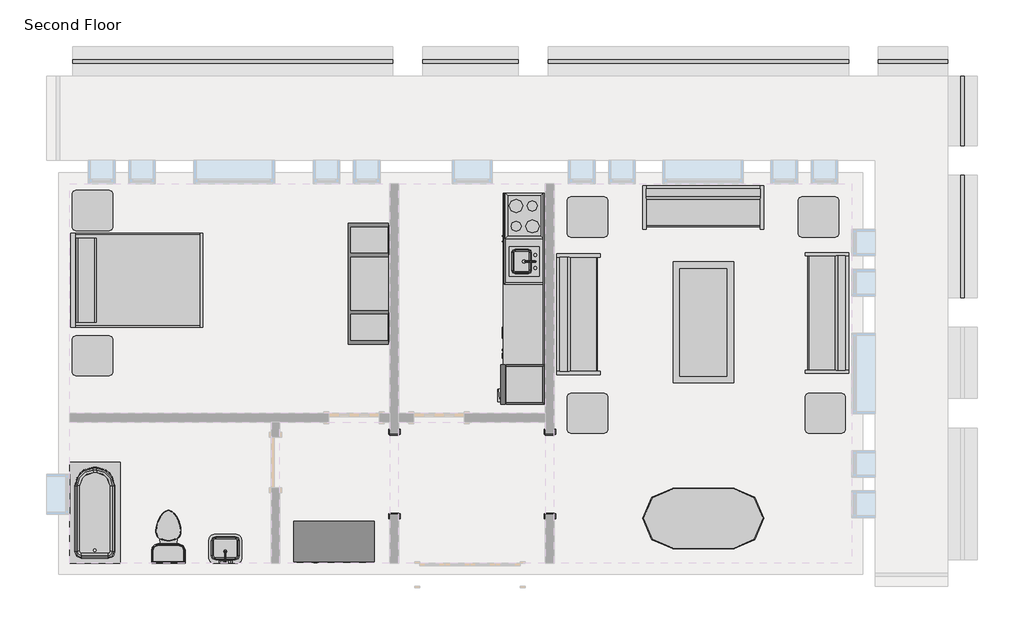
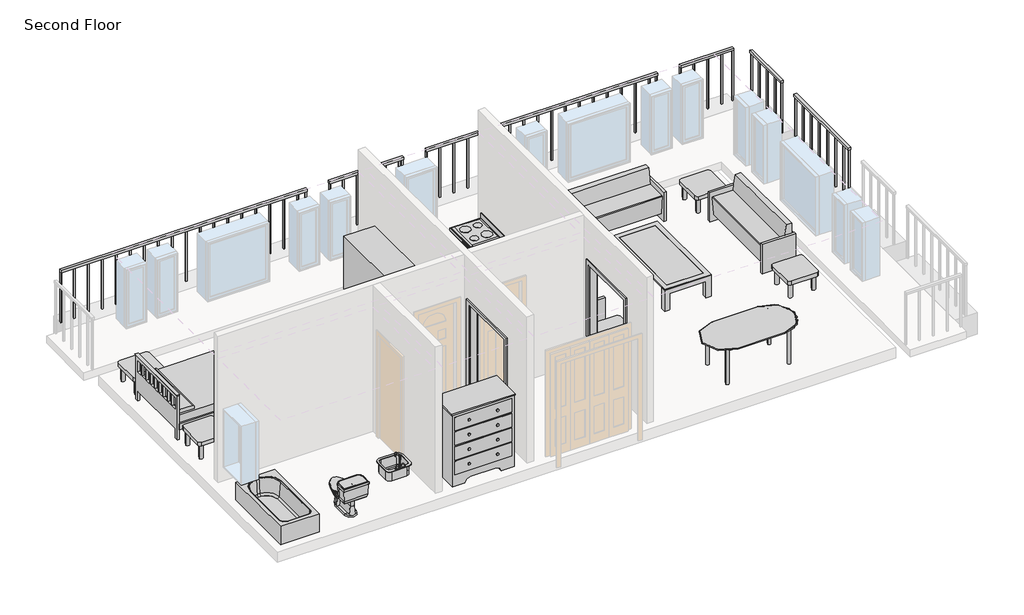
# One storey, part 2 of 2: 15 furniture elements, 6 proxies, 6 railings, 4 flow terminals.
"""IFC4 building model written with IfcOpenShell, lengths in millimetres."""

from ifc_helpers import new_model, si_unit, frame, origin, place, context, project, spatial, polyline, outline, extrude, transform, mapped, element, save
from components import m_cook_top_4_unit2_0615_x_500mm_249f3515, m_dishwasher_610_x_610_x_875mm_54ecfc4c, m_kitchenette_medium_1372mm_e05c6bec, m_passage_opening_cased_1220_x_2134mm_87a8d9c2, m_refrigerator_600_x_660mm_a466bf94, m_sink_kitchen_island_450_x_450mm_f969cf2d, m_sink_vanity_square_500_x_440mm_1e229b74, m_toilet_domestic_3d_m_toilet_domestic_3d_5cb52bd4, m_toilet_domestic_3d_m_toilet_domestic_3d_183bbd19, m_tub_rectangular_3d_m_tub_rectangular_3d_3a981ad5, m_bed_shaker_1422_x_1981mm_double_096e7f55, m_counter_top_w_sink_hole_600mm_depth_1fb56bb9, m_dresser_1220_x_1525_x_0610mm_18e1f140, m_entertainment_center_1830_x_1830_x_0610mm_f77a9b93, m_sofa_1830mm_58d08fc1, m_table_coffee_0915_x_1830_x_0457mm_134cd960, m_table_dining_oval_0915_x_1830mm_a7cfbe21, m_table_end_cb6ea12e

model = new_model("IFC4")

# Units and contexts
model_context = context("Model", 3, world=origin())
ifc_project = project(units=[si_unit("LENGTHUNIT", "METRE", prefix="MILLI")], contexts=[model_context])

# Site, building, storey
site = spatial("IfcSite", under=ifc_project)
building = spatial("IfcBuilding", under=site)
storey = spatial("IfcBuildingStorey", under=building, Name="Second Floor", Elevation=3048.0)

# Proxies
placement = place(None, origin())
m_cook_top_4_unit2_0615_x_500mm_shape = m_cook_top_4_unit2_0615_x_500mm_249f3515(model_context)
element("IfcBuildingElementProxy", 1, Name="M_Cook Top-4 Unit2 : 0615 x 500mm", ObjectType="M_Cook Top-4 Unit2 : 0615 x 500mm", at=placement, inside=storey, context=model_context, shape_type="MappedRepresentation", body=[
    mapped(m_cook_top_4_unit2_0615_x_500mm_shape, transform((-8054.9916203, 1914.054661, 3048.0), x_axis=(0.0, -1.0, 0.0), y_axis=(1.0, 0.0, 0.0), z_axis=(0.0, 0.0, 1.0))),
])
m_dishwasher_610_x_610_x_875mm_shape = m_dishwasher_610_x_610_x_875mm_54ecfc4c(model_context)
element("IfcBuildingElementProxy", 2, Name="M_Dishwasher : 610 x 610 x 875mm", ObjectType="M_Dishwasher : 610 x 610 x 875mm", at=placement, inside=storey, context=model_context, shape_type="MappedRepresentation", body=[
    mapped(m_dishwasher_610_x_610_x_875mm_shape, transform((-8321.6411851, 353.5721295, 3048.0), x_axis=(0.0, -1.0, 0.0), y_axis=(1.0, 0.0, 0.0), z_axis=(0.0, 0.0, 1.0))),
])
m_kitchenette_medium_1372mm_shape = m_kitchenette_medium_1372mm_e05c6bec(model_context)
element("IfcBuildingElementProxy", 3, Name="M_Kitchenette - Medium : 1372mm", ObjectType="M_Kitchenette - Medium : 1372mm", at=placement, inside=storey, context=model_context, shape_type="MappedRepresentation", body=[
    mapped(m_kitchenette_medium_1372mm_shape, transform((-7749.9916203, 1589.7923659, 3048.0), x_axis=(0.0, -1.0, 0.0), y_axis=(1.0, 0.0, 0.0), z_axis=(0.0, 0.0, 1.0))),
])
m_passage_opening_cased_1220_x_2134mm_shape = m_passage_opening_cased_1220_x_2134mm_87a8d9c2(model_context)
element("IfcBuildingElementProxy", 4, Name="M_Passage Opening-Cased : 1220 x 2134mm", ObjectType="M_Passage Opening-Cased : 1220 x 2134mm", at=placement, inside=storey, context=model_context, shape_type="MappedRepresentation", body=[
    mapped(m_passage_opening_cased_1220_x_2134mm_shape, transform((-7665.3416203, -1982.6925047, 3048.0), x_axis=(0.0, 1.0, 0.0), y_axis=(-1.0, 0.0, 0.0), z_axis=(0.0, 0.0, 1.0))),
])
element("IfcBuildingElementProxy", 5, Name="M_Passage Opening-Cased : 1220 x 2134mm", ObjectType="M_Passage Opening-Cased : 1220 x 2134mm", at=placement, inside=storey, context=model_context, shape_type="MappedRepresentation", body=[
    mapped(m_passage_opening_cased_1220_x_2134mm_shape, transform((-10019.0916203, -1999.0698181, 3048.0), x_axis=(0.0, -1.0, 0.0), y_axis=(1.0, 0.0, 0.0), z_axis=(0.0, 0.0, 1.0))),
])
m_refrigerator_600_x_660mm_shape = m_refrigerator_600_x_660mm_a466bf94(model_context)
element("IfcBuildingElementProxy", 6, Name="M_Refrigerator : 600 x 660mm", ObjectType="M_Refrigerator : 600 x 660mm", at=placement, inside=storey, context=model_context, shape_type="MappedRepresentation", body=[
    mapped(m_refrigerator_600_x_660mm_shape, transform((-8046.2067105, -687.7464817, 3048.0), x_axis=(0.0, -1.0, 0.0), y_axis=(1.0, 0.0, 0.0), z_axis=(0.0, 0.0, 1.0))),
])

# Flow terminals
m_sink_kitchen_island_450_x_450mm_shape = m_sink_kitchen_island_450_x_450mm_f969cf2d(model_context)
element("IfcFlowTerminal", 7, ObjectType="M_Sink Kitchen-Island : 450 x 450mm", at=placement, inside=storey, context=model_context, shape_type="MappedRepresentation", body=[
    mapped(m_sink_kitchen_island_450_x_450mm_shape, transform((-8057.3370214, 1243.7439015, 3048.0), x_axis=(0.0, -1.0, 0.0), y_axis=(1.0, 0.0, 0.0), z_axis=(0.0, 0.0, 1.0))),
])
m_sink_vanity_square_500_x_440mm_shape = m_sink_vanity_square_500_x_440mm_1e229b74(model_context)
element("IfcFlowTerminal", 8, ObjectType="M_Sink Vanity-Square : 500 x 440mm", at=placement, inside=storey, context=model_context, shape_type="MappedRepresentation", body=[
    mapped(m_sink_vanity_square_500_x_440mm_shape, transform((-12563.5523798, -3158.1107603, 3048.0), x_axis=(-1.0, 0.0, 0.0), y_axis=(0.0, -1.0, 0.0), z_axis=(0.0, 0.0, 1.0))),
])
m_toilet_domestic_3d_m_toilet_domestic_3d_shape = m_toilet_domestic_3d_m_toilet_domestic_3d_5cb52bd4(model_context)
m_toilet_domestic_3d_m_toilet_domestic_3d_2_shape = m_toilet_domestic_3d_m_toilet_domestic_3d_183bbd19(model_context)
element("IfcFlowTerminal", 9, ObjectType="M_Toilet-Domestic-3D : M_Toilet-Domestic-3D", at=placement, inside=storey, context=model_context, shape_type="MappedRepresentation", body=[
    mapped(m_toilet_domestic_3d_m_toilet_domestic_3d_shape, transform((-13440.7376477, -2845.185134, 3048.0), x_axis=(-1.0000000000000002, 0.0, 0.0), y_axis=(0.0, -1.0000000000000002, 0.0), z_axis=(0.0, 0.0, 1.0))),
    mapped(m_toilet_domestic_3d_m_toilet_domestic_3d_2_shape, transform((-13440.7376477, -2845.185134, 3048.0), x_axis=(-1.0000000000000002, 0.0, 0.0), y_axis=(0.0, -1.0000000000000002, 0.0), z_axis=(0.0, 0.0, 1.0))),
])
m_tub_rectangular_3d_m_tub_rectangular_3d_shape = m_tub_rectangular_3d_m_tub_rectangular_3d_3a981ad5(model_context)
element("IfcFlowTerminal", 10, ObjectType="M_Tub-Rectangular-3D : M_Tub-Rectangular-3D", at=placement, inside=storey, context=model_context, shape_type="MappedRepresentation", body=[
    mapped(m_tub_rectangular_3d_m_tub_rectangular_3d_shape, transform((-15110.3416203, -2229.2781927, 3048.0), x_axis=(0.0, 1.0, 0.0), y_axis=(-1.0, 0.0, 0.0), z_axis=(0.0, 0.0, 1.0))),
])

# Furniture
m_bed_shaker_1422_x_1981mm_double_shape = m_bed_shaker_1422_x_1981mm_double_096e7f55(model_context)
element("IfcFurniture", 11, ObjectType="M_Bed-Shaker : 1422 x 1981mm - Double", at=placement, inside=storey, context=model_context, shape_type="MappedRepresentation", body=[
    mapped(m_bed_shaker_1422_x_1981mm_double_shape, transform((-14905.3416203, 963.9688386, 3048.0), x_axis=(0.0, 1.0000000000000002, 0.0), y_axis=(-1.0000000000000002, 0.0, 0.0), z_axis=(0.0, 0.0, 1.0))),
])
m_counter_top_w_sink_hole_600mm_depth_shape = m_counter_top_w_sink_hole_600mm_depth_1fb56bb9(model_context)
element("IfcFurniture", 12, ObjectType="M_Counter Top w Sink Hole : 600mm Depth", at=placement, inside=storey, context=model_context, shape_type="MappedRepresentation", body=[
    mapped(m_counter_top_w_sink_hole_600mm_depth_shape, transform((-7749.9916203, 1056.5923659, 3048.0), x_axis=(0.0, -1.0, 0.0), y_axis=(1.0, 0.0, 0.0), z_axis=(0.0, 0.0, 1.0))),
])
m_dresser_1220_x_1525_x_0610mm_shape = m_dresser_1220_x_1525_x_0610mm_18e1f140(model_context)
element("IfcFurniture", 13, ObjectType="M_Dresser : 1220 x 1525 x 0610mm", at=placement, inside=storey, context=model_context, shape_type="MappedRepresentation", body=[
    mapped(m_dresser_1220_x_1525_x_0610mm_shape, transform((-10667.6483605, -2647.7182073, 3048.0), x_axis=(1.0, 0.0, 0.0), y_axis=(0.0, 1.0, 0.0), z_axis=(0.0, 0.0, 1.0))),
])
m_entertainment_center_1830_x_1830_x_0610mm_shape = m_entertainment_center_1830_x_1830_x_0610mm_f77a9b93(model_context)
element("IfcFurniture", 14, ObjectType="M_Entertainment center : 1830 x 1830 x 0610mm", at=placement, inside=storey, context=model_context, shape_type="MappedRepresentation", body=[
    mapped(m_entertainment_center_1830_x_1830_x_0610mm_shape, transform((-10818.2416203, 891.1188386, 3048.0), x_axis=(0.0, 1.0, 0.0), y_axis=(-1.0, 0.0, 0.0), z_axis=(0.0, 0.0, 1.0))),
])
m_sofa_1830mm_shape = m_sofa_1830mm_58d08fc1(model_context)
element("IfcFurniture", 15, ObjectType="M_Sofa : 1830mm", at=placement, inside=storey, context=model_context, shape_type="MappedRepresentation", body=[
    mapped(m_sofa_1830mm_shape, transform((-5413.7121121, 1899.9647403, 3048.0), x_axis=(1.0, 0.0, 0.0), y_axis=(0.0, 1.0, 0.0), z_axis=(0.0, 0.0, 1.0))),
])
element("IfcFurniture", 16, ObjectType="M_Sofa : 1830mm", at=placement, inside=storey, context=model_context, shape_type="MappedRepresentation", body=[
    mapped(m_sofa_1830mm_shape, transform((-3617.1736471, 517.2688343, 3048.0), x_axis=(0.0, -1.0, 0.0), y_axis=(1.0, 0.0, 0.0), z_axis=(0.0, 0.0, 1.0))),
])
element("IfcFurniture", 17, ObjectType="M_Sofa : 1830mm", at=placement, inside=storey, context=model_context, shape_type="MappedRepresentation", body=[
    mapped(m_sofa_1830mm_shape, transform((-7088.437522, 355.7483468, 3048.0), x_axis=(0.0, 1.0, 0.0), y_axis=(-1.0, 0.0, 0.0), z_axis=(0.0, 0.0, 1.0))),
])
m_table_coffee_0915_x_1830_x_0457mm_shape = m_table_coffee_0915_x_1830_x_0457mm_134cd960(model_context)
element("IfcFurniture", 18, ObjectType="M_Table-Coffee : 0915 x 1830 x 0457mm", at=placement, inside=storey, context=model_context, shape_type="MappedRepresentation", body=[
    mapped(m_table_coffee_0915_x_1830_x_0457mm_shape, transform((-5248.1305425, 287.8530719, 3048.0), x_axis=(0.0, 1.0, 0.0), y_axis=(-1.0, 0.0, 0.0), z_axis=(0.0, 0.0, 1.0))),
])
m_table_dining_oval_0915_x_1830mm_shape = m_table_dining_oval_0915_x_1830mm_a7cfbe21(model_context)
element("IfcFurniture", 19, ObjectType="M_Table-Dining Oval : 0915 x 1830mm", at=placement, inside=storey, context=model_context, shape_type="MappedRepresentation", body=[
    mapped(m_table_dining_oval_0915_x_1830mm_shape, transform((-4941.5219482, -2305.2828007, 3048.0), x_axis=(1.0, 0.0, 0.0), y_axis=(0.0, 1.0, 0.0), z_axis=(0.0, 0.0, 1.0))),
])
m_table_end_shape = m_table_end_cb6ea12e(model_context)
element("IfcFurniture", 20, ObjectType="M_Table-End : 0610 x 0160mm altered height", at=placement, inside=storey, context=model_context, shape_type="MappedRepresentation", body=[
    mapped(m_table_end_shape, transform((-7407.0752506, 1748.7188386, 3048.0), x_axis=(1.0, 0.0, 0.0), y_axis=(0.0, 1.0, 0.0), z_axis=(0.0, 0.0, 1.0))),
])
element("IfcFurniture", 21, ObjectType="M_Table-End : 0610 x 0160mm altered height", at=placement, inside=storey, context=model_context, shape_type="MappedRepresentation", body=[
    mapped(m_table_end_shape, transform((-3907.0752506, 1748.7188386, 3048.0), x_axis=(1.0, 0.0, 0.0), y_axis=(0.0, 1.0, 0.0), z_axis=(0.0, 0.0, 1.0))),
])
element("IfcFurniture", 22, ObjectType="M_Table-End : 0610 x 0160mm altered height", at=placement, inside=storey, context=model_context, shape_type="MappedRepresentation", body=[
    mapped(m_table_end_shape, transform((-3807.0752506, -1222.7811614, 3048.0), x_axis=(1.0, 0.0, 0.0), y_axis=(0.0, 1.0, 0.0), z_axis=(0.0, 0.0, 1.0))),
])
element("IfcFurniture", 23, ObjectType="M_Table-End : 0610 x 0160mm altered height", at=placement, inside=storey, context=model_context, shape_type="MappedRepresentation", body=[
    mapped(m_table_end_shape, transform((-7407.0752506, -1222.7811614, 3048.0), x_axis=(1.0, 0.0, 0.0), y_axis=(0.0, 1.0, 0.0), z_axis=(0.0, 0.0, 1.0))),
])
element("IfcFurniture", 24, ObjectType="M_Table-End : 0610 x 0160mm altered height", at=placement, inside=storey, context=model_context, shape_type="MappedRepresentation", body=[
    mapped(m_table_end_shape, transform((-14899.0752506, -351.2811614, 3048.0), x_axis=(1.0, 0.0, 0.0), y_axis=(0.0, 1.0, 0.0), z_axis=(0.0, 0.0, 1.0))),
])
element("IfcFurniture", 25, ObjectType="M_Table-End : 0610 x 0160mm altered height", at=placement, inside=storey, context=model_context, shape_type="MappedRepresentation", body=[
    mapped(m_table_end_shape, transform((-14899.0752506, 1848.7188386, 3048.0), x_axis=(1.0, 0.0, 0.0), y_axis=(0.0, 1.0, 0.0), z_axis=(0.0, 0.0, 1.0))),
])

# Railings
element("IfcRailing", 26, ObjectType="1100mm", at=placement, inside=storey, context=model_context, shape_type="SweptSolid", body=[
    extrude(outline(polyline([(-14885.3416203, 4231.1188386), (-14885.3416203, 4281.1188386), (-10043.3416203, 4281.1188386), (-10043.3416203, 4231.1188386), (-14885.3416203, 4231.1188386)])), frame((0.0, 0.0, 4098.0), z_axis=(0.0, 0.0, 1.0), x_axis=(1.0, 0.0, 0.0)), (0.0, 0.0, 1.0), 50.0),
    extrude(outline(polyline([(-10222.8416203, 4243.6188386), (-10222.8416203, 4268.6188386), (-10197.8416203, 4268.6188386), (-10197.8416203, 4243.6188386), (-10222.8416203, 4243.6188386)])), frame((0.0, 0.0, 3048.0), z_axis=(0.0, 0.0, 1.0), x_axis=(1.0, 0.0, 0.0)), (0.0, 0.0, 1.0), 1050.0),
    extrude(outline(polyline([(-10497.8416203, 4243.6188386), (-10497.8416203, 4268.6188386), (-10472.8416203, 4268.6188386), (-10472.8416203, 4243.6188386), (-10497.8416203, 4243.6188386)])), frame((0.0, 0.0, 3048.0), z_axis=(0.0, 0.0, 1.0), x_axis=(1.0, 0.0, 0.0)), (0.0, 0.0, 1.0), 1050.0),
    extrude(outline(polyline([(-10772.8416203, 4243.6188386), (-10772.8416203, 4268.6188386), (-10747.8416203, 4268.6188386), (-10747.8416203, 4243.6188386), (-10772.8416203, 4243.6188386)])), frame((0.0, 0.0, 3048.0), z_axis=(0.0, 0.0, 1.0), x_axis=(1.0, 0.0, 0.0)), (0.0, 0.0, 1.0), 1050.0),
    extrude(outline(polyline([(-11047.8416203, 4243.6188386), (-11047.8416203, 4268.6188386), (-11022.8416203, 4268.6188386), (-11022.8416203, 4243.6188386), (-11047.8416203, 4243.6188386)])), frame((0.0, 0.0, 3048.0), z_axis=(0.0, 0.0, 1.0), x_axis=(1.0, 0.0, 0.0)), (0.0, 0.0, 1.0), 1050.0),
    extrude(outline(polyline([(-11322.8416203, 4243.6188386), (-11322.8416203, 4268.6188386), (-11297.8416203, 4268.6188386), (-11297.8416203, 4243.6188386), (-11322.8416203, 4243.6188386)])), frame((0.0, 0.0, 3048.0), z_axis=(0.0, 0.0, 1.0), x_axis=(1.0, 0.0, 0.0)), (0.0, 0.0, 1.0), 1050.0),
    extrude(outline(polyline([(-11597.8416203, 4243.6188386), (-11597.8416203, 4268.6188386), (-11572.8416203, 4268.6188386), (-11572.8416203, 4243.6188386), (-11597.8416203, 4243.6188386)])), frame((0.0, 0.0, 3048.0), z_axis=(0.0, 0.0, 1.0), x_axis=(1.0, 0.0, 0.0)), (0.0, 0.0, 1.0), 1050.0),
    extrude(outline(polyline([(-11872.8416203, 4243.6188386), (-11872.8416203, 4268.6188386), (-11847.8416203, 4268.6188386), (-11847.8416203, 4243.6188386), (-11872.8416203, 4243.6188386)])), frame((0.0, 0.0, 3048.0), z_axis=(0.0, 0.0, 1.0), x_axis=(1.0, 0.0, 0.0)), (0.0, 0.0, 1.0), 1050.0),
    extrude(outline(polyline([(-12147.8416203, 4243.6188386), (-12147.8416203, 4268.6188386), (-12122.8416203, 4268.6188386), (-12122.8416203, 4243.6188386), (-12147.8416203, 4243.6188386)])), frame((0.0, 0.0, 3048.0), z_axis=(0.0, 0.0, 1.0), x_axis=(1.0, 0.0, 0.0)), (0.0, 0.0, 1.0), 1050.0),
    extrude(outline(polyline([(-12422.8416203, 4243.6188386), (-12422.8416203, 4268.6188386), (-12397.8416203, 4268.6188386), (-12397.8416203, 4243.6188386), (-12422.8416203, 4243.6188386)])), frame((0.0, 0.0, 3048.0), z_axis=(0.0, 0.0, 1.0), x_axis=(1.0, 0.0, 0.0)), (0.0, 0.0, 1.0), 1050.0),
    extrude(outline(polyline([(-12697.8416203, 4243.6188386), (-12697.8416203, 4268.6188386), (-12672.8416203, 4268.6188386), (-12672.8416203, 4243.6188386), (-12697.8416203, 4243.6188386)])), frame((0.0, 0.0, 3048.0), z_axis=(0.0, 0.0, 1.0), x_axis=(1.0, 0.0, 0.0)), (0.0, 0.0, 1.0), 1050.0),
    extrude(outline(polyline([(-12972.8416203, 4243.6188386), (-12972.8416203, 4268.6188386), (-12947.8416203, 4268.6188386), (-12947.8416203, 4243.6188386), (-12972.8416203, 4243.6188386)])), frame((0.0, 0.0, 3048.0), z_axis=(0.0, 0.0, 1.0), x_axis=(1.0, 0.0, 0.0)), (0.0, 0.0, 1.0), 1050.0),
    extrude(outline(polyline([(-13247.8416203, 4243.6188386), (-13247.8416203, 4268.6188386), (-13222.8416203, 4268.6188386), (-13222.8416203, 4243.6188386), (-13247.8416203, 4243.6188386)])), frame((0.0, 0.0, 3048.0), z_axis=(0.0, 0.0, 1.0), x_axis=(1.0, 0.0, 0.0)), (0.0, 0.0, 1.0), 1050.0),
    extrude(outline(polyline([(-13522.8416203, 4243.6188386), (-13522.8416203, 4268.6188386), (-13497.8416203, 4268.6188386), (-13497.8416203, 4243.6188386), (-13522.8416203, 4243.6188386)])), frame((0.0, 0.0, 3048.0), z_axis=(0.0, 0.0, 1.0), x_axis=(1.0, 0.0, 0.0)), (0.0, 0.0, 1.0), 1050.0),
    extrude(outline(polyline([(-13797.8416203, 4243.6188386), (-13797.8416203, 4268.6188386), (-13772.8416203, 4268.6188386), (-13772.8416203, 4243.6188386), (-13797.8416203, 4243.6188386)])), frame((0.0, 0.0, 3048.0), z_axis=(0.0, 0.0, 1.0), x_axis=(1.0, 0.0, 0.0)), (0.0, 0.0, 1.0), 1050.0),
    extrude(outline(polyline([(-14072.8416203, 4243.6188386), (-14072.8416203, 4268.6188386), (-14047.8416203, 4268.6188386), (-14047.8416203, 4243.6188386), (-14072.8416203, 4243.6188386)])), frame((0.0, 0.0, 3048.0), z_axis=(0.0, 0.0, 1.0), x_axis=(1.0, 0.0, 0.0)), (0.0, 0.0, 1.0), 1050.0),
    extrude(outline(polyline([(-14347.8416203, 4243.6188386), (-14347.8416203, 4268.6188386), (-14322.8416203, 4268.6188386), (-14322.8416203, 4243.6188386), (-14347.8416203, 4243.6188386)])), frame((0.0, 0.0, 3048.0), z_axis=(0.0, 0.0, 1.0), x_axis=(1.0, 0.0, 0.0)), (0.0, 0.0, 1.0), 1050.0),
    extrude(outline(polyline([(-14622.8416203, 4243.6188386), (-14622.8416203, 4268.6188386), (-14597.8416203, 4268.6188386), (-14597.8416203, 4243.6188386), (-14622.8416203, 4243.6188386)])), frame((0.0, 0.0, 3048.0), z_axis=(0.0, 0.0, 1.0), x_axis=(1.0, 0.0, 0.0)), (0.0, 0.0, 1.0), 1050.0),
    extrude(outline(polyline([(-10068.3416203, 4243.6188386), (-10068.3416203, 4268.6188386), (-10043.3416203, 4268.6188386), (-10043.3416203, 4243.6188386), (-10068.3416203, 4243.6188386)])), frame((0.0, 0.0, 3048.0), z_axis=(0.0, 0.0, 1.0), x_axis=(1.0, 0.0, 0.0)), (0.0, 0.0, 1.0), 1050.0),
    extrude(outline(polyline([(-14885.3416203, 4243.6188386), (-14885.3416203, 4268.6188386), (-14860.3416203, 4268.6188386), (-14860.3416203, 4243.6188386), (-14885.3416203, 4243.6188386)])), frame((0.0, 0.0, 3048.0), z_axis=(0.0, 0.0, 1.0), x_axis=(1.0, 0.0, 0.0)), (0.0, 0.0, 1.0), 1050.0),
])
element("IfcRailing", 27, ObjectType="1100mm", at=placement, inside=storey, context=model_context, shape_type="SweptSolid", body=[
    extrude(outline(polyline([(-9593.3416203, 4231.1188386), (-9593.3416203, 4281.1188386), (-8143.3416203, 4281.1188386), (-8143.3416203, 4231.1188386), (-9593.3416203, 4231.1188386)])), frame((0.0, 0.0, 4098.0), z_axis=(0.0, 0.0, 1.0), x_axis=(1.0, 0.0, 0.0)), (0.0, 0.0, 1.0), 50.0),
    extrude(outline(polyline([(-8230.8416203, 4243.6188386), (-8230.8416203, 4268.6188386), (-8205.8416203, 4268.6188386), (-8205.8416203, 4243.6188386), (-8230.8416203, 4243.6188386)])), frame((0.0, 0.0, 3048.0), z_axis=(0.0, 0.0, 1.0), x_axis=(1.0, 0.0, 0.0)), (0.0, 0.0, 1.0), 1050.0),
    extrude(outline(polyline([(-8505.8416203, 4243.6188386), (-8505.8416203, 4268.6188386), (-8480.8416203, 4268.6188386), (-8480.8416203, 4243.6188386), (-8505.8416203, 4243.6188386)])), frame((0.0, 0.0, 3048.0), z_axis=(0.0, 0.0, 1.0), x_axis=(1.0, 0.0, 0.0)), (0.0, 0.0, 1.0), 1050.0),
    extrude(outline(polyline([(-8780.8416203, 4243.6188386), (-8780.8416203, 4268.6188386), (-8755.8416203, 4268.6188386), (-8755.8416203, 4243.6188386), (-8780.8416203, 4243.6188386)])), frame((0.0, 0.0, 3048.0), z_axis=(0.0, 0.0, 1.0), x_axis=(1.0, 0.0, 0.0)), (0.0, 0.0, 1.0), 1050.0),
    extrude(outline(polyline([(-9055.8416203, 4243.6188386), (-9055.8416203, 4268.6188386), (-9030.8416203, 4268.6188386), (-9030.8416203, 4243.6188386), (-9055.8416203, 4243.6188386)])), frame((0.0, 0.0, 3048.0), z_axis=(0.0, 0.0, 1.0), x_axis=(1.0, 0.0, 0.0)), (0.0, 0.0, 1.0), 1050.0),
    extrude(outline(polyline([(-9330.8416203, 4243.6188386), (-9330.8416203, 4268.6188386), (-9305.8416203, 4268.6188386), (-9305.8416203, 4243.6188386), (-9330.8416203, 4243.6188386)])), frame((0.0, 0.0, 3048.0), z_axis=(0.0, 0.0, 1.0), x_axis=(1.0, 0.0, 0.0)), (0.0, 0.0, 1.0), 1050.0),
    extrude(outline(polyline([(-8168.3416203, 4243.6188386), (-8168.3416203, 4268.6188386), (-8143.3416203, 4268.6188386), (-8143.3416203, 4243.6188386), (-8168.3416203, 4243.6188386)])), frame((0.0, 0.0, 3048.0), z_axis=(0.0, 0.0, 1.0), x_axis=(1.0, 0.0, 0.0)), (0.0, 0.0, 1.0), 1050.0),
    extrude(outline(polyline([(-9593.3416203, 4243.6188386), (-9593.3416203, 4268.6188386), (-9568.3416203, 4268.6188386), (-9568.3416203, 4243.6188386), (-9593.3416203, 4243.6188386)])), frame((0.0, 0.0, 3048.0), z_axis=(0.0, 0.0, 1.0), x_axis=(1.0, 0.0, 0.0)), (0.0, 0.0, 1.0), 1050.0),
])
element("IfcRailing", 28, ObjectType="1100mm", at=placement, inside=storey, context=model_context, shape_type="SweptSolid", body=[
    extrude(outline(polyline([(-7693.3416203, 4231.1188386), (-7693.3416203, 4281.1188386), (-3143.3416203, 4281.1188386), (-3143.3416203, 4231.1188386), (-7693.3416203, 4231.1188386)])), frame((0.0, 0.0, 4098.0), z_axis=(0.0, 0.0, 1.0), x_axis=(1.0, 0.0, 0.0)), (0.0, 0.0, 1.0), 50.0),
    extrude(outline(polyline([(-3305.8416203, 4243.6188386), (-3305.8416203, 4268.6188386), (-3280.8416203, 4268.6188386), (-3280.8416203, 4243.6188386), (-3305.8416203, 4243.6188386)])), frame((0.0, 0.0, 3048.0), z_axis=(0.0, 0.0, 1.0), x_axis=(1.0, 0.0, 0.0)), (0.0, 0.0, 1.0), 1050.0),
    extrude(outline(polyline([(-3580.8416203, 4243.6188386), (-3580.8416203, 4268.6188386), (-3555.8416203, 4268.6188386), (-3555.8416203, 4243.6188386), (-3580.8416203, 4243.6188386)])), frame((0.0, 0.0, 3048.0), z_axis=(0.0, 0.0, 1.0), x_axis=(1.0, 0.0, 0.0)), (0.0, 0.0, 1.0), 1050.0),
    extrude(outline(polyline([(-3855.8416203, 4243.6188386), (-3855.8416203, 4268.6188386), (-3830.8416203, 4268.6188386), (-3830.8416203, 4243.6188386), (-3855.8416203, 4243.6188386)])), frame((0.0, 0.0, 3048.0), z_axis=(0.0, 0.0, 1.0), x_axis=(1.0, 0.0, 0.0)), (0.0, 0.0, 1.0), 1050.0),
    extrude(outline(polyline([(-4130.8416203, 4243.6188386), (-4130.8416203, 4268.6188386), (-4105.8416203, 4268.6188386), (-4105.8416203, 4243.6188386), (-4130.8416203, 4243.6188386)])), frame((0.0, 0.0, 3048.0), z_axis=(0.0, 0.0, 1.0), x_axis=(1.0, 0.0, 0.0)), (0.0, 0.0, 1.0), 1050.0),
    extrude(outline(polyline([(-4405.8416203, 4243.6188386), (-4405.8416203, 4268.6188386), (-4380.8416203, 4268.6188386), (-4380.8416203, 4243.6188386), (-4405.8416203, 4243.6188386)])), frame((0.0, 0.0, 3048.0), z_axis=(0.0, 0.0, 1.0), x_axis=(1.0, 0.0, 0.0)), (0.0, 0.0, 1.0), 1050.0),
    extrude(outline(polyline([(-4680.8416203, 4243.6188386), (-4680.8416203, 4268.6188386), (-4655.8416203, 4268.6188386), (-4655.8416203, 4243.6188386), (-4680.8416203, 4243.6188386)])), frame((0.0, 0.0, 3048.0), z_axis=(0.0, 0.0, 1.0), x_axis=(1.0, 0.0, 0.0)), (0.0, 0.0, 1.0), 1050.0),
    extrude(outline(polyline([(-4955.8416203, 4243.6188386), (-4955.8416203, 4268.6188386), (-4930.8416203, 4268.6188386), (-4930.8416203, 4243.6188386), (-4955.8416203, 4243.6188386)])), frame((0.0, 0.0, 3048.0), z_axis=(0.0, 0.0, 1.0), x_axis=(1.0, 0.0, 0.0)), (0.0, 0.0, 1.0), 1050.0),
    extrude(outline(polyline([(-5230.8416203, 4243.6188386), (-5230.8416203, 4268.6188386), (-5205.8416203, 4268.6188386), (-5205.8416203, 4243.6188386), (-5230.8416203, 4243.6188386)])), frame((0.0, 0.0, 3048.0), z_axis=(0.0, 0.0, 1.0), x_axis=(1.0, 0.0, 0.0)), (0.0, 0.0, 1.0), 1050.0),
    extrude(outline(polyline([(-5505.8416203, 4243.6188386), (-5505.8416203, 4268.6188386), (-5480.8416203, 4268.6188386), (-5480.8416203, 4243.6188386), (-5505.8416203, 4243.6188386)])), frame((0.0, 0.0, 3048.0), z_axis=(0.0, 0.0, 1.0), x_axis=(1.0, 0.0, 0.0)), (0.0, 0.0, 1.0), 1050.0),
    extrude(outline(polyline([(-5780.8416203, 4243.6188386), (-5780.8416203, 4268.6188386), (-5755.8416203, 4268.6188386), (-5755.8416203, 4243.6188386), (-5780.8416203, 4243.6188386)])), frame((0.0, 0.0, 3048.0), z_axis=(0.0, 0.0, 1.0), x_axis=(1.0, 0.0, 0.0)), (0.0, 0.0, 1.0), 1050.0),
    extrude(outline(polyline([(-6055.8416203, 4243.6188386), (-6055.8416203, 4268.6188386), (-6030.8416203, 4268.6188386), (-6030.8416203, 4243.6188386), (-6055.8416203, 4243.6188386)])), frame((0.0, 0.0, 3048.0), z_axis=(0.0, 0.0, 1.0), x_axis=(1.0, 0.0, 0.0)), (0.0, 0.0, 1.0), 1050.0),
    extrude(outline(polyline([(-6330.8416203, 4243.6188386), (-6330.8416203, 4268.6188386), (-6305.8416203, 4268.6188386), (-6305.8416203, 4243.6188386), (-6330.8416203, 4243.6188386)])), frame((0.0, 0.0, 3048.0), z_axis=(0.0, 0.0, 1.0), x_axis=(1.0, 0.0, 0.0)), (0.0, 0.0, 1.0), 1050.0),
    extrude(outline(polyline([(-6605.8416203, 4243.6188386), (-6605.8416203, 4268.6188386), (-6580.8416203, 4268.6188386), (-6580.8416203, 4243.6188386), (-6605.8416203, 4243.6188386)])), frame((0.0, 0.0, 3048.0), z_axis=(0.0, 0.0, 1.0), x_axis=(1.0, 0.0, 0.0)), (0.0, 0.0, 1.0), 1050.0),
    extrude(outline(polyline([(-6880.8416203, 4243.6188386), (-6880.8416203, 4268.6188386), (-6855.8416203, 4268.6188386), (-6855.8416203, 4243.6188386), (-6880.8416203, 4243.6188386)])), frame((0.0, 0.0, 3048.0), z_axis=(0.0, 0.0, 1.0), x_axis=(1.0, 0.0, 0.0)), (0.0, 0.0, 1.0), 1050.0),
    extrude(outline(polyline([(-7155.8416203, 4243.6188386), (-7155.8416203, 4268.6188386), (-7130.8416203, 4268.6188386), (-7130.8416203, 4243.6188386), (-7155.8416203, 4243.6188386)])), frame((0.0, 0.0, 3048.0), z_axis=(0.0, 0.0, 1.0), x_axis=(1.0, 0.0, 0.0)), (0.0, 0.0, 1.0), 1050.0),
    extrude(outline(polyline([(-7430.8416203, 4243.6188386), (-7430.8416203, 4268.6188386), (-7405.8416203, 4268.6188386), (-7405.8416203, 4243.6188386), (-7430.8416203, 4243.6188386)])), frame((0.0, 0.0, 3048.0), z_axis=(0.0, 0.0, 1.0), x_axis=(1.0, 0.0, 0.0)), (0.0, 0.0, 1.0), 1050.0),
    extrude(outline(polyline([(-3168.3416203, 4243.6188386), (-3168.3416203, 4268.6188386), (-3143.3416203, 4268.6188386), (-3143.3416203, 4243.6188386), (-3168.3416203, 4243.6188386)])), frame((0.0, 0.0, 3048.0), z_axis=(0.0, 0.0, 1.0), x_axis=(1.0, 0.0, 0.0)), (0.0, 0.0, 1.0), 1050.0),
    extrude(outline(polyline([(-7693.3416203, 4243.6188386), (-7693.3416203, 4268.6188386), (-7668.3416203, 4268.6188386), (-7668.3416203, 4243.6188386), (-7693.3416203, 4243.6188386)])), frame((0.0, 0.0, 3048.0), z_axis=(0.0, 0.0, 1.0), x_axis=(1.0, 0.0, 0.0)), (0.0, 0.0, 1.0), 1050.0),
])
element("IfcRailing", 29, ObjectType="1100mm", at=placement, inside=storey, context=model_context, shape_type="SweptSolid", body=[
    extrude(outline(polyline([(-2693.3416203, 4231.1188386), (-2693.3416203, 4281.1188386), (-1643.3416203, 4281.1188386), (-1643.3416203, 4231.1188386), (-2693.3416203, 4231.1188386)])), frame((0.0, 0.0, 4098.0), z_axis=(0.0, 0.0, 1.0), x_axis=(1.0, 0.0, 0.0)), (0.0, 0.0, 1.0), 50.0),
    extrude(outline(polyline([(-1880.8416203, 4243.6188386), (-1880.8416203, 4268.6188386), (-1855.8416203, 4268.6188386), (-1855.8416203, 4243.6188386), (-1880.8416203, 4243.6188386)])), frame((0.0, 0.0, 3048.0), z_axis=(0.0, 0.0, 1.0), x_axis=(1.0, 0.0, 0.0)), (0.0, 0.0, 1.0), 1050.0),
    extrude(outline(polyline([(-2155.8416203, 4243.6188386), (-2155.8416203, 4268.6188386), (-2130.8416203, 4268.6188386), (-2130.8416203, 4243.6188386), (-2155.8416203, 4243.6188386)])), frame((0.0, 0.0, 3048.0), z_axis=(0.0, 0.0, 1.0), x_axis=(1.0, 0.0, 0.0)), (0.0, 0.0, 1.0), 1050.0),
    extrude(outline(polyline([(-2430.8416203, 4243.6188386), (-2430.8416203, 4268.6188386), (-2405.8416203, 4268.6188386), (-2405.8416203, 4243.6188386), (-2430.8416203, 4243.6188386)])), frame((0.0, 0.0, 3048.0), z_axis=(0.0, 0.0, 1.0), x_axis=(1.0, 0.0, 0.0)), (0.0, 0.0, 1.0), 1050.0),
    extrude(outline(polyline([(-1668.3416203, 4243.6188386), (-1668.3416203, 4268.6188386), (-1643.3416203, 4268.6188386), (-1643.3416203, 4243.6188386), (-1668.3416203, 4243.6188386)])), frame((0.0, 0.0, 3048.0), z_axis=(0.0, 0.0, 1.0), x_axis=(1.0, 0.0, 0.0)), (0.0, 0.0, 1.0), 1050.0),
    extrude(outline(polyline([(-2693.3416203, 4243.6188386), (-2693.3416203, 4268.6188386), (-2668.3416203, 4268.6188386), (-2668.3416203, 4243.6188386), (-2693.3416203, 4243.6188386)])), frame((0.0, 0.0, 3048.0), z_axis=(0.0, 0.0, 1.0), x_axis=(1.0, 0.0, 0.0)), (0.0, 0.0, 1.0), 1050.0),
])
element("IfcRailing", 30, ObjectType="1100mm", at=placement, inside=storey, context=model_context, shape_type="SweptSolid", body=[
    extrude(outline(polyline([(-1443.3416203, 4031.1188386), (-1393.3416203, 4031.1188386), (-1393.3416203, 2981.1188386), (-1443.3416203, 2981.1188386), (-1443.3416203, 4031.1188386)])), frame((0.0, 0.0, 4098.0), z_axis=(0.0, 0.0, 1.0), x_axis=(1.0, 0.0, 0.0)), (0.0, 0.0, 1.0), 50.0),
    extrude(outline(polyline([(-1430.8416203, 3218.6188386), (-1405.8416203, 3218.6188386), (-1405.8416203, 3193.6188386), (-1430.8416203, 3193.6188386), (-1430.8416203, 3218.6188386)])), frame((0.0, 0.0, 3048.0), z_axis=(0.0, 0.0, 1.0), x_axis=(1.0, 0.0, 0.0)), (0.0, 0.0, 1.0), 1050.0),
    extrude(outline(polyline([(-1430.8416203, 3493.6188386), (-1405.8416203, 3493.6188386), (-1405.8416203, 3468.6188386), (-1430.8416203, 3468.6188386), (-1430.8416203, 3493.6188386)])), frame((0.0, 0.0, 3048.0), z_axis=(0.0, 0.0, 1.0), x_axis=(1.0, 0.0, 0.0)), (0.0, 0.0, 1.0), 1050.0),
    extrude(outline(polyline([(-1430.8416203, 3768.6188386), (-1405.8416203, 3768.6188386), (-1405.8416203, 3743.6188386), (-1430.8416203, 3743.6188386), (-1430.8416203, 3768.6188386)])), frame((0.0, 0.0, 3048.0), z_axis=(0.0, 0.0, 1.0), x_axis=(1.0, 0.0, 0.0)), (0.0, 0.0, 1.0), 1050.0),
    extrude(outline(polyline([(-1430.8416203, 3006.1188386), (-1405.8416203, 3006.1188386), (-1405.8416203, 2981.1188386), (-1430.8416203, 2981.1188386), (-1430.8416203, 3006.1188386)])), frame((0.0, 0.0, 3048.0), z_axis=(0.0, 0.0, 1.0), x_axis=(1.0, 0.0, 0.0)), (0.0, 0.0, 1.0), 1050.0),
    extrude(outline(polyline([(-1430.8416203, 4031.1188386), (-1405.8416203, 4031.1188386), (-1405.8416203, 4006.1188386), (-1430.8416203, 4006.1188386), (-1430.8416203, 4031.1188386)])), frame((0.0, 0.0, 3048.0), z_axis=(0.0, 0.0, 1.0), x_axis=(1.0, 0.0, 0.0)), (0.0, 0.0, 1.0), 1050.0),
])
element("IfcRailing", 31, ObjectType="1100mm", at=placement, inside=storey, context=model_context, shape_type="SweptSolid", body=[
    extrude(outline(polyline([(-1443.3416203, 2531.1188386), (-1393.3416203, 2531.1188386), (-1393.3416203, 681.1188386), (-1443.3416203, 681.1188386), (-1443.3416203, 2531.1188386)])), frame((0.0, 0.0, 4098.0), z_axis=(0.0, 0.0, 1.0), x_axis=(1.0, 0.0, 0.0)), (0.0, 0.0, 1.0), 50.0),
    extrude(outline(polyline([(-1430.8416203, 893.6188386), (-1405.8416203, 893.6188386), (-1405.8416203, 868.6188386), (-1430.8416203, 868.6188386), (-1430.8416203, 893.6188386)])), frame((0.0, 0.0, 3048.0), z_axis=(0.0, 0.0, 1.0), x_axis=(1.0, 0.0, 0.0)), (0.0, 0.0, 1.0), 1050.0),
    extrude(outline(polyline([(-1430.8416203, 1168.6188386), (-1405.8416203, 1168.6188386), (-1405.8416203, 1143.6188386), (-1430.8416203, 1143.6188386), (-1430.8416203, 1168.6188386)])), frame((0.0, 0.0, 3048.0), z_axis=(0.0, 0.0, 1.0), x_axis=(1.0, 0.0, 0.0)), (0.0, 0.0, 1.0), 1050.0),
    extrude(outline(polyline([(-1430.8416203, 1443.6188386), (-1405.8416203, 1443.6188386), (-1405.8416203, 1418.6188386), (-1430.8416203, 1418.6188386), (-1430.8416203, 1443.6188386)])), frame((0.0, 0.0, 3048.0), z_axis=(0.0, 0.0, 1.0), x_axis=(1.0, 0.0, 0.0)), (0.0, 0.0, 1.0), 1050.0),
    extrude(outline(polyline([(-1430.8416203, 1718.6188386), (-1405.8416203, 1718.6188386), (-1405.8416203, 1693.6188386), (-1430.8416203, 1693.6188386), (-1430.8416203, 1718.6188386)])), frame((0.0, 0.0, 3048.0), z_axis=(0.0, 0.0, 1.0), x_axis=(1.0, 0.0, 0.0)), (0.0, 0.0, 1.0), 1050.0),
    extrude(outline(polyline([(-1430.8416203, 1993.6188386), (-1405.8416203, 1993.6188386), (-1405.8416203, 1968.6188386), (-1430.8416203, 1968.6188386), (-1430.8416203, 1993.6188386)])), frame((0.0, 0.0, 3048.0), z_axis=(0.0, 0.0, 1.0), x_axis=(1.0, 0.0, 0.0)), (0.0, 0.0, 1.0), 1050.0),
    extrude(outline(polyline([(-1430.8416203, 2268.6188386), (-1405.8416203, 2268.6188386), (-1405.8416203, 2243.6188386), (-1430.8416203, 2243.6188386), (-1430.8416203, 2268.6188386)])), frame((0.0, 0.0, 3048.0), z_axis=(0.0, 0.0, 1.0), x_axis=(1.0, 0.0, 0.0)), (0.0, 0.0, 1.0), 1050.0),
    extrude(outline(polyline([(-1430.8416203, 706.1188386), (-1405.8416203, 706.1188386), (-1405.8416203, 681.1188386), (-1430.8416203, 681.1188386), (-1430.8416203, 706.1188386)])), frame((0.0, 0.0, 3048.0), z_axis=(0.0, 0.0, 1.0), x_axis=(1.0, 0.0, 0.0)), (0.0, 0.0, 1.0), 1050.0),
    extrude(outline(polyline([(-1430.8416203, 2531.1188386), (-1405.8416203, 2531.1188386), (-1405.8416203, 2506.1188386), (-1430.8416203, 2506.1188386), (-1430.8416203, 2531.1188386)])), frame((0.0, 0.0, 3048.0), z_axis=(0.0, 0.0, 1.0), x_axis=(1.0, 0.0, 0.0)), (0.0, 0.0, 1.0), 1050.0),
])

save(model, "model.ifc")
